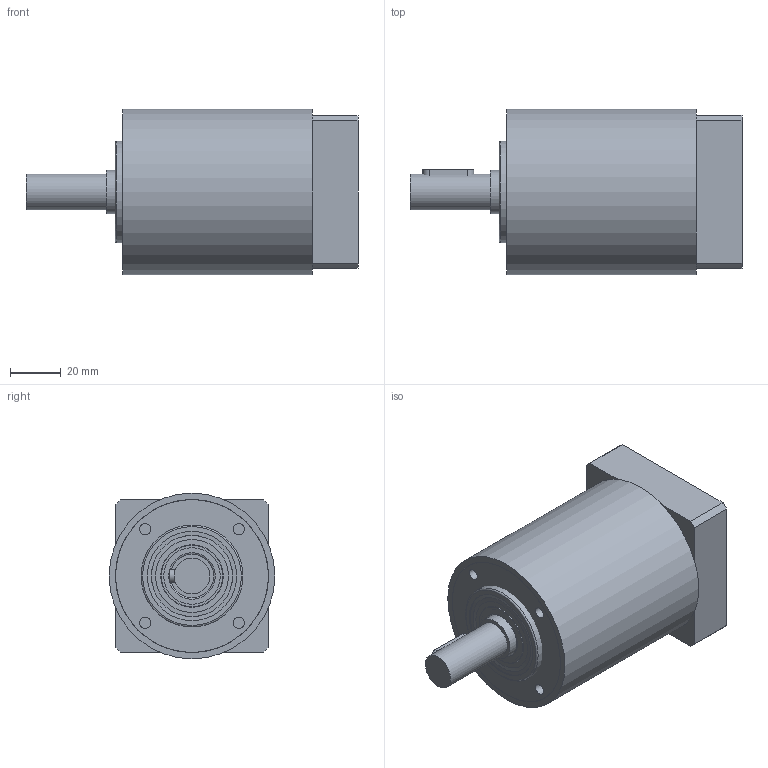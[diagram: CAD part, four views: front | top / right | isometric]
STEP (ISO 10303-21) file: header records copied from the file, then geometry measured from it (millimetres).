
FILE_DESCRIPTION(/* description */ (''),/* implementation_level */ '2;1');
FILE_NAME(/* name */ 'E0001806MP050107105252',/* time_stamp */ '2007-01-05T10:57:00+01:00',/* author */ (''),/* organization */ (''),/* preprocessor_version */ 'ST-DEVELOPER v9',/* originating_system */ 'EDS PLM SOLUTIONS - UNIGRAPHICS NX 2.0',/* authorisation */ '');
FILE_SCHEMA (('CONFIG_CONTROL_DESIGN'));
Length unit declared in the file: millimetre
Products named in the file (1): E0001806MP050107105252_u3d
Bounding box: 130.25 x 65 x 65 mm (x, y, z)
Volume: 374077.8 mm3; surface area: 72087 mm2
Topology: 12 solids, 12 shells, 135 faces, 279 edges, 177 vertices
Faces by surface type: cylinder 51, plane 48, cone 26, torus 10
Full cylindrical faces by diameter (mm): 3.432 x9, 4.351 x4, 4.5 x1, 6.35 x1, 7.5 x1, 9.75 x1, 10 x1, 14 x1, 15 x1, 17 x2, 22.2 x2, 24.5 x2, 32.9 x2, 35 x4, 35.5 x1, 38.1 x1, 40 x1, 43 x1, 50 x1, 57.4 x1, 59.85 x1, 60 x2, 65 x1
Entity records: 3178 total; most frequent: CARTESIAN_POINT 567, DIRECTION 564, ORIENTED_EDGE 352, AXIS2_PLACEMENT_3D 255, EDGE_LOOP 234, EDGE_CURVE 176, FACE_BOUND 163, VERTEX_POINT 160
